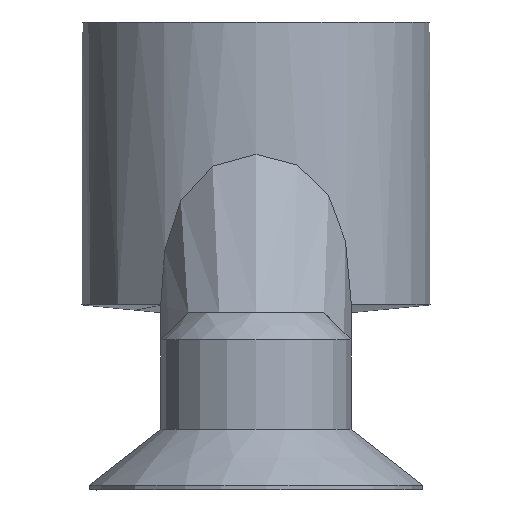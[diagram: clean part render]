
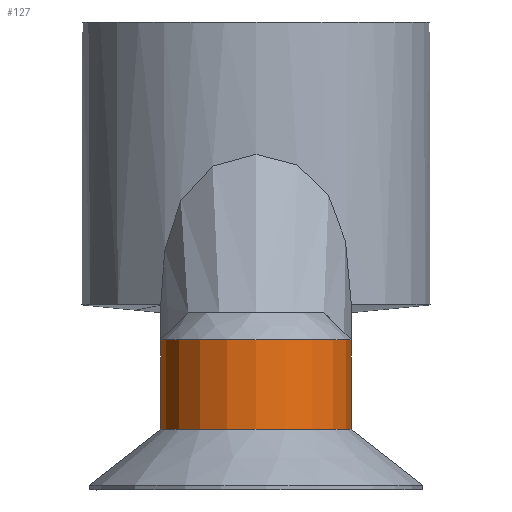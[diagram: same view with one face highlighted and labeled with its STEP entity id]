
A CAD part, left-side view. The second image highlights one B-rep face of the part: STEP entity #127.
In plain terms, the highlighted cylindrical face has radius 4.347 mm (diameter 8.694 mm), a partial arc.
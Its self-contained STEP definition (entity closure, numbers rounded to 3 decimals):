
#19 = CARTESIAN_POINT ( 'NONE',  ( 127.179, 60.136, -33.829 ) ) ;
#43 = CARTESIAN_POINT ( 'NONE',  ( 127.179, 68.83, -32.463 ) ) ;
#125 = ORIENTED_EDGE ( 'NONE', *, *, #260, .F. ) ;
#127 = ADVANCED_FACE ( 'NONE', ( #2708 ), #3238, .T. ) ;
#164 = CARTESIAN_POINT ( 'NONE',  ( 127.179, 60.136, -32.463 ) ) ;
#200 = EDGE_CURVE ( 'NONE', #1938, #395, #844, .T. ) ;
#260 = EDGE_CURVE ( 'NONE', #1406, #395, #1787, .T. ) ;
#298 = CARTESIAN_POINT ( 'NONE',  ( 127.179, 60.136, -32.463 ) ) ;
#359 = CARTESIAN_POINT ( 'NONE',  ( 127.18, 64.483, -32.463 ) ) ;
#395 = VERTEX_POINT ( 'NONE', #2566 ) ;
#844 = B_SPLINE_CURVE_WITH_KNOTS ( 'NONE', 3,
 ( #43, #2387, #1870, #3346 ),
 .UNSPECIFIED., .F., .F.,
 ( 4, 4 ),
 ( 0., 1. ),
 .UNSPECIFIED. ) ;
#884 = DIRECTION ( 'NONE',  ( 0., 0., -1. ) ) ;
#1232 = DIRECTION ( 'NONE',  ( 0., -1., 0. ) ) ;
#1394 = ORIENTED_EDGE ( 'NONE', *, *, #3321, .F. ) ;
#1406 = VERTEX_POINT ( 'NONE', #1492 ) ;
#1492 = CARTESIAN_POINT ( 'NONE',  ( 127.18, 60.136, -36.562 ) ) ;
#1502 = B_SPLINE_CURVE_WITH_KNOTS ( 'NONE', 3,
 ( #298, #19, #1864, #2856 ),
 .UNSPECIFIED., .F., .F.,
 ( 4, 4 ),
 ( 0., 1. ),
 .UNSPECIFIED. ) ;
#1602 = EDGE_LOOP ( 'NONE', ( #1697, #125, #1394, #2022 ) ) ;
#1697 = ORIENTED_EDGE ( 'NONE', *, *, #200, .T. ) ;
#1722 = VERTEX_POINT ( 'NONE', #164 ) ;
#1787 = CIRCLE ( 'NONE', #3365, 4.347 ) ;
#1864 = CARTESIAN_POINT ( 'NONE',  ( 127.18, 60.136, -35.195 ) ) ;
#1870 = CARTESIAN_POINT ( 'NONE',  ( 127.179, 68.83, -35.195 ) ) ;
#1935 = CARTESIAN_POINT ( 'NONE',  ( 127.179, 68.83, -32.463 ) ) ;
#1938 = VERTEX_POINT ( 'NONE', #1935 ) ;
#2014 = DIRECTION ( 'NONE',  ( 0., 0., -1. ) ) ;
#2022 = ORIENTED_EDGE ( 'NONE', *, *, #2091, .T. ) ;
#2034 = DIRECTION ( 'NONE',  ( 0., 0., -1. ) ) ;
#2061 = AXIS2_PLACEMENT_3D ( 'NONE', #359, #884, #2197 ) ;
#2091 = EDGE_CURVE ( 'NONE', #1722, #1938, #2159, .T. ) ;
#2159 = CIRCLE ( 'NONE', #2491, 4.347 ) ;
#2197 = DIRECTION ( 'NONE',  ( -1., 0., 0. ) ) ;
#2290 = CARTESIAN_POINT ( 'NONE',  ( 127.18, 64.483, -32.463 ) ) ;
#2387 = CARTESIAN_POINT ( 'NONE',  ( 127.179, 68.83, -33.829 ) ) ;
#2491 = AXIS2_PLACEMENT_3D ( 'NONE', #2290, #2034, #3076 ) ;
#2566 = CARTESIAN_POINT ( 'NONE',  ( 127.18, 68.83, -36.562 ) ) ;
#2708 = FACE_OUTER_BOUND ( 'NONE', #1602, .T. ) ;
#2856 = CARTESIAN_POINT ( 'NONE',  ( 127.18, 60.136, -36.562 ) ) ;
#3076 = DIRECTION ( 'NONE',  ( 0., -1., 0. ) ) ;
#3120 = CARTESIAN_POINT ( 'NONE',  ( 127.18, 64.483, -36.562 ) ) ;
#3238 = CYLINDRICAL_SURFACE ( 'NONE', #2061, 4.347 ) ;
#3321 = EDGE_CURVE ( 'NONE', #1722, #1406, #1502, .T. ) ;
#3346 = CARTESIAN_POINT ( 'NONE',  ( 127.18, 68.83, -36.562 ) ) ;
#3365 = AXIS2_PLACEMENT_3D ( 'NONE', #3120, #2014, #1232 ) ;
